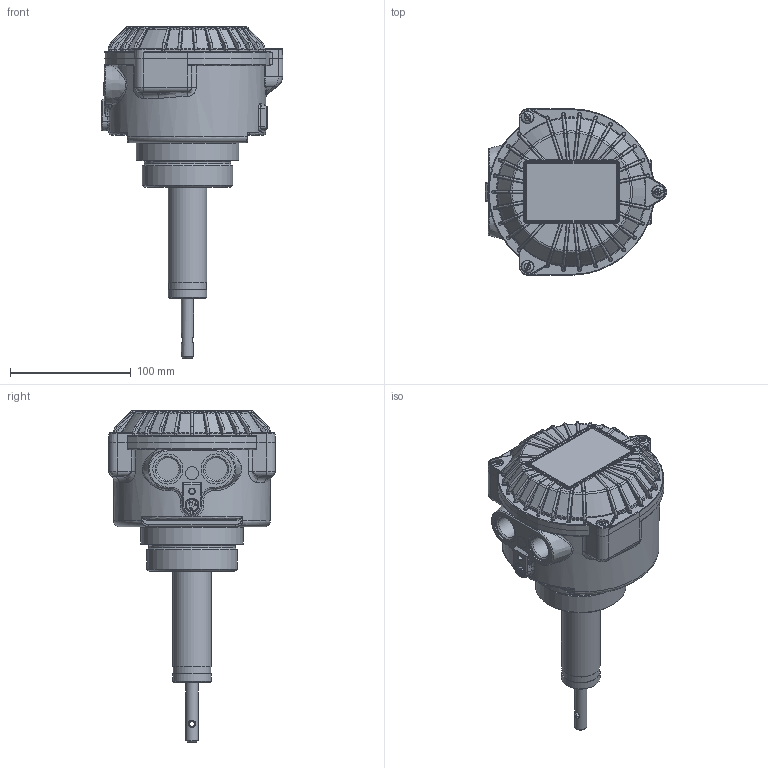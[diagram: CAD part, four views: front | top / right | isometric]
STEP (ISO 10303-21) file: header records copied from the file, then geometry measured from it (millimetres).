
FILE_DESCRIPTION(/* description */ (''),/* implementation_level */ '2;1');
FILE_NAME(/* name */ '\\srvgest\camlogic\TEMP\Kulwant S\2_STEP\2_STEP\PFG05\PFG-05 X.stp',/* time_stamp */ '2021-06-10T10:41:19+02:00',/* author */ ('kulwant.singh'),/* organization */ (''),/* preprocessor_version */ 'ST-DEVELOPER v18.1',/* originating_system */ 'Autodesk Inventor 2022',/* authorisation */ '');
FILE_SCHEMA (('AUTOMOTIVE_DESIGN { 1 0 10303 214 3 1 1 }'));
Products named in the file (1): PFG-05 X
Bounding box: 150.5 x 138 x 275.5 mm (x, y, z)
Volume: 1503928.8 mm3; surface area: 100392.5 mm2
Topology: 1 solids, 1 shells, 2004 faces, 4672 edges, 2683 vertices
Faces by surface type: bspline 696, cylinder 414, plane 351, torus 227, cone 200, sphere 116
Full cylindrical faces by diameter (mm): 4.134 x1, 4.65 x1, 9.4 x1, 10 x6, 10.5 x1, 10.75 x1, 10.8 x3, 14.2 x1, 18.631 x2, 23.5 x1, 25 x2, 26 x2, 31 x1, 32 x2, 72 x1, 75.18 x1, 85 x1
Entity records: 79869 total; most frequent: CARTESIAN_POINT 36279, ORIENTED_EDGE 9314, DIRECTION 7790, EDGE_CURVE 4657, AXIS2_PLACEMENT_3D 3323, VERTEX_POINT 2683, EDGE_LOOP 2036, FACE_OUTER_BOUND 2004
